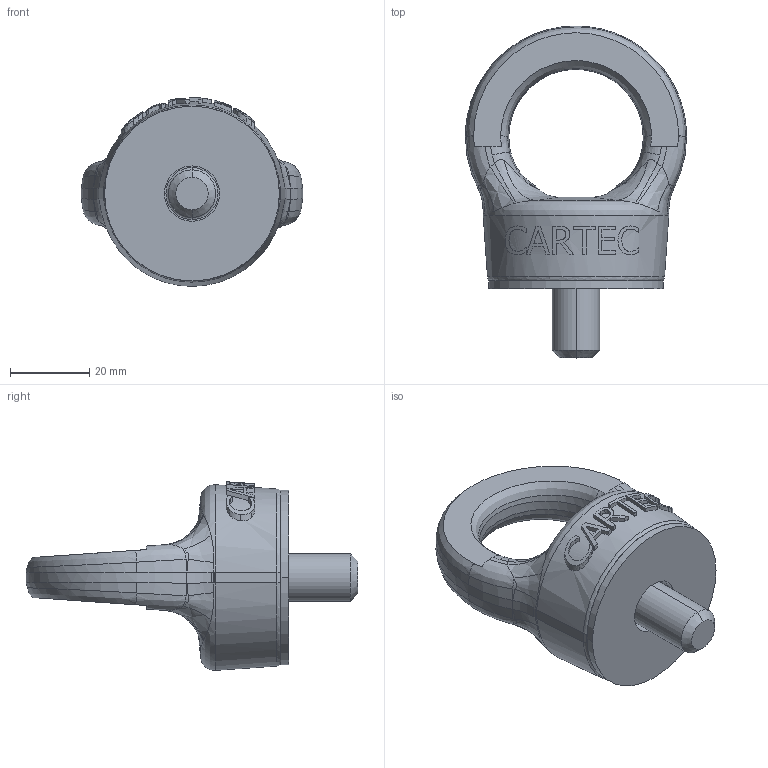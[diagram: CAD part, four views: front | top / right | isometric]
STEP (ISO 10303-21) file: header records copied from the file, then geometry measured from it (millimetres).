
FILE_DESCRIPTION(('STEP AP214'),'1');
FILE_NAME('c817x12.stp','2017-03-22T15:21:37',('TraceParts'),('TraceParts S.A.'),'Spatial InterOp 3D',' ',' ');
FILE_SCHEMA(('automotive_design'));
Length unit declared in the file: millimetre
Products named in the file (3): c817x12_1; c817x12_2; c817x12_3
Bounding box: 56 x 84 x 47.77 mm (x, y, z)
Volume: 51134.6 mm3; surface area: 16368 mm2
Topology: 3 solids, 3 shells, 239 faces, 639 edges, 410 vertices
Faces by surface type: bspline 119, plane 84, cylinder 30, torus 4, cone 2
Entity records: 17113 total; most frequent: CARTESIAN_POINT 9915, ORIENTED_EDGE 1270, DIRECTION 814, EDGE_CURVE 635, VERTEX_POINT 410, AXIS2_PLACEMENT_3D 302, EDGE_LOOP 253, B_SPLINE_CURVE_WITH_KNOTS 246
